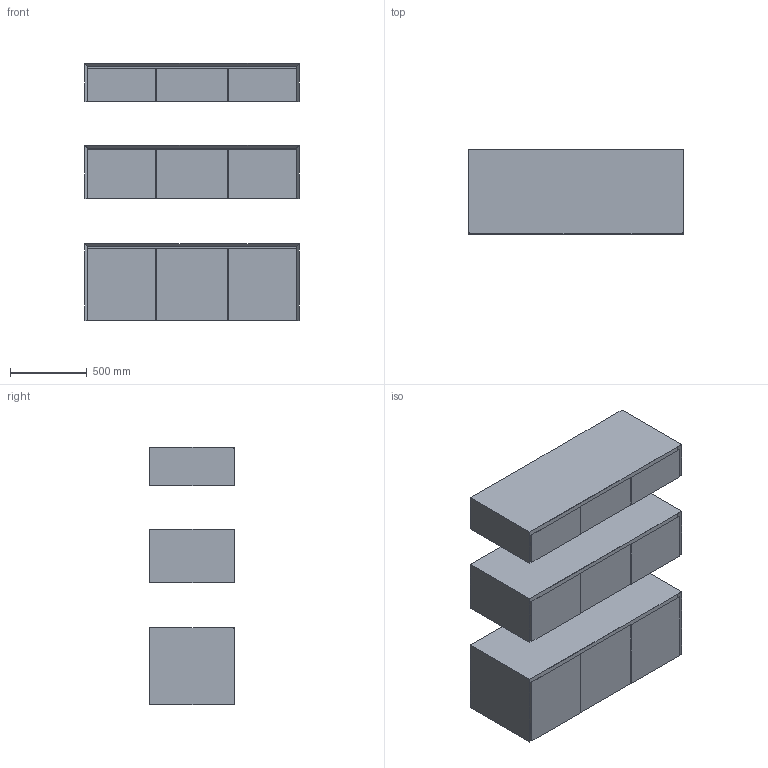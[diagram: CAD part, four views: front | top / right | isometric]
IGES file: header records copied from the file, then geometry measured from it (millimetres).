
Global section: file name: \\Archi-NAS\Comune\X GIOVANNI\MOBILI\EVERMOTION\EVERMOTION_3.igs; native system: Rhinoceros ( Feb 23 2021 ); preprocessor: Trout Lake IGES 012 Feb 23 2021; date: 230607.160123; units: millimetre
Bounding box: 1400 x 550 x 1676.31 mm (x, y, z)
Surface area: 27298890.8 mm2 (no closed solid volume)
Topology: 0 solids, 0 shells, 449 faces, 2236 edges, 2236 vertices
Faces by surface type: bspline 449
